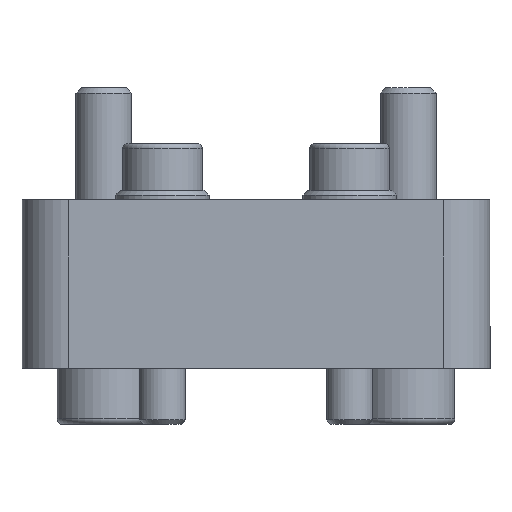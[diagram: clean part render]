
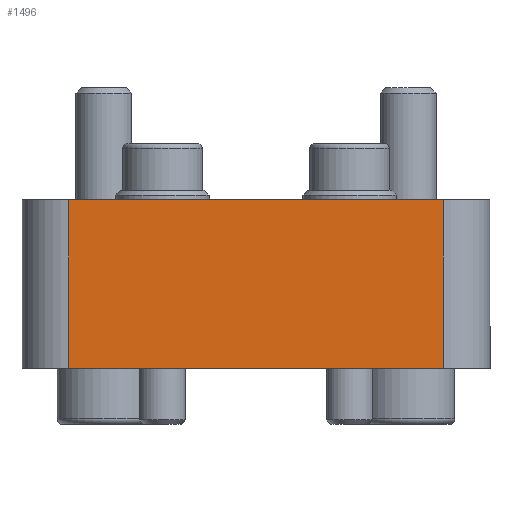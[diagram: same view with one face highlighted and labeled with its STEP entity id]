
A CAD part, front view. The second image highlights one B-rep face of the part: STEP entity #1496.
In plain terms, the highlighted planar face has unit normal (0, -1, 0) as drawn and (1, 0, 0) by its records, which use the part's own axes.
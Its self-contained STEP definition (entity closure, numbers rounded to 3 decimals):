
#130=LINE('',#2272,#234);
#148=LINE('',#2356,#252);
#200=LINE('',#2508,#304);
#201=LINE('',#2510,#305);
#234=VECTOR('',#1806,10.);
#252=VECTOR('',#1874,10.);
#304=VECTOR('',#2046,10.);
#305=VECTOR('',#2049,10.);
#353=PLANE('',#1696);
#502=FACE_OUTER_BOUND('',#619,.T.);
#619=EDGE_LOOP('',(#1309,#1310,#1311,#1312));
#760=VERTEX_POINT('',#2269);
#761=VERTEX_POINT('',#2271);
#801=VERTEX_POINT('',#2353);
#802=VERTEX_POINT('',#2355);
#895=EDGE_CURVE('',#760,#761,#130,.T.);
#936=EDGE_CURVE('',#801,#802,#148,.T.);
#1011=EDGE_CURVE('',#761,#801,#200,.T.);
#1012=EDGE_CURVE('',#760,#802,#201,.T.);
#1309=ORIENTED_EDGE('',*,*,#1011,.F.);
#1310=ORIENTED_EDGE('',*,*,#895,.F.);
#1311=ORIENTED_EDGE('',*,*,#1012,.T.);
#1312=ORIENTED_EDGE('',*,*,#936,.F.);
#1496=ADVANCED_FACE('',(#502),#353,.T.);
#1696=AXIS2_PLACEMENT_3D('',#2509,#2047,#2048);
#1806=DIRECTION('',(0.,0.,-1.));
#1874=DIRECTION('',(0.,0.,1.));
#2046=DIRECTION('',(0.,-1.,0.));
#2047=DIRECTION('center_axis',(1.,0.,0.));
#2048=DIRECTION('ref_axis',(0.,0.,-1.));
#2049=DIRECTION('',(0.,-1.,0.));
#2269=CARTESIAN_POINT('',(75.,9.,20.));
#2271=CARTESIAN_POINT('',(75.,9.,-20.));
#2272=CARTESIAN_POINT('',(75.,9.,-20.));
#2353=CARTESIAN_POINT('',(75.,-9.,-20.));
#2355=CARTESIAN_POINT('',(75.,-9.,20.));
#2356=CARTESIAN_POINT('',(75.,-9.,-20.));
#2508=CARTESIAN_POINT('',(75.,0.,-20.));
#2509=CARTESIAN_POINT('Origin',(75.,0.,20.));
#2510=CARTESIAN_POINT('',(75.,0.,20.));
